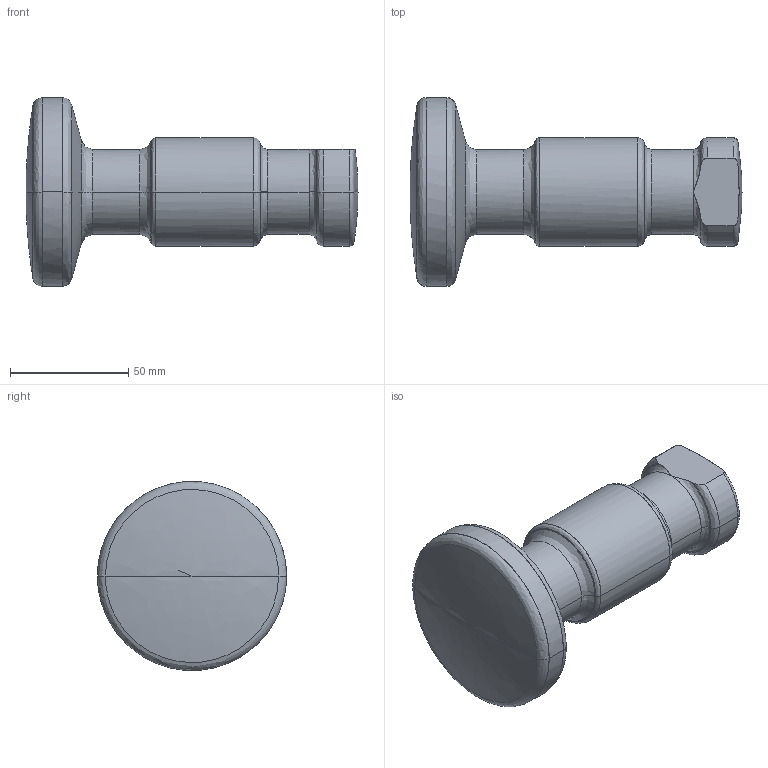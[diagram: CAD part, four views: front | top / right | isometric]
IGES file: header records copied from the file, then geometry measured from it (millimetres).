
Global section: file name: E:\UnigraphicsGraphicData\MISUMI_PRESS-PARTS\IGES\3d_chfl36_03522_r00.igs; native system: NX V5.0; preprocessor: UGS NX IGES V5.0; author: MISUMI; date: 20110105.160217; units: millimetre
Bounding box: 140.5 x 80 x 79.87 mm (x, y, z)
Surface area: 29581 mm2 (no closed solid volume)
Topology: 0 solids, 0 shells, 48 faces, 214 edges, 210 vertices
Faces by surface type: bspline 48
